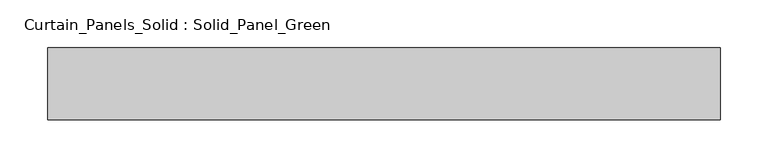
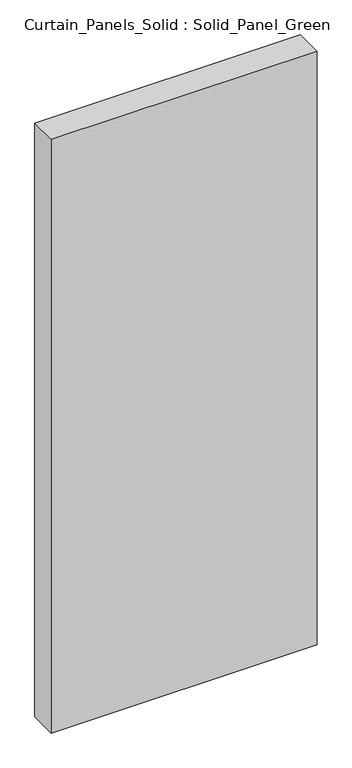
"""IFC4 building model written with IfcOpenShell, lengths in millimetres: plate geometry, Curtain_Panels_Solid : Solid_Panel_Green."""

from ifc_helpers import new_model, si_unit, origin, origin_with_axes, place, context, project, spatial, polyline, outline, extrude, source, transform, mapped, element, save


def curtain_panels_solid_solid_panel_green_cec9bcfa(model_context):
    return source(origin(), model_context, "Body", "SweptSolid", [
        extrude(outline(polyline([(351.2499999, -25.0), (-351.2499999, -25.0), (-351.2499999, 50.0), (351.2499999, 50.0), (351.2499999, -25.0)])), origin_with_axes(), (0.0, 0.0, 1.0), 1657.5),
    ])


if __name__ == "__main__":
    model = new_model("IFC4")
    model_context = context("Model", 3, world=origin())
    ifc_project = project(units=[si_unit("LENGTHUNIT", "METRE", prefix="MILLI")], contexts=[model_context])
    site = spatial("IfcSite", under=ifc_project)
    building = spatial("IfcBuilding", under=site)
    placement = place(None, origin())
    curtain_panels_solid_solid_panel_green_shape = curtain_panels_solid_solid_panel_green_cec9bcfa(model_context)
    element("IfcPlate", 1, ObjectType="Curtain_Panels_Solid : Solid_Panel_Green", at=placement, inside=building, context=model_context, shape_type="MappedRepresentation", body=[
        mapped(curtain_panels_solid_solid_panel_green_shape, transform((0.0, 0.0, 0.0), x_axis=(1.0, 0.0, 0.0), y_axis=(0.0, 1.0, 0.0), z_axis=(0.0, 0.0, 1.0))),
    ])
    save(model, "model.ifc")
